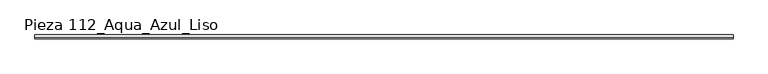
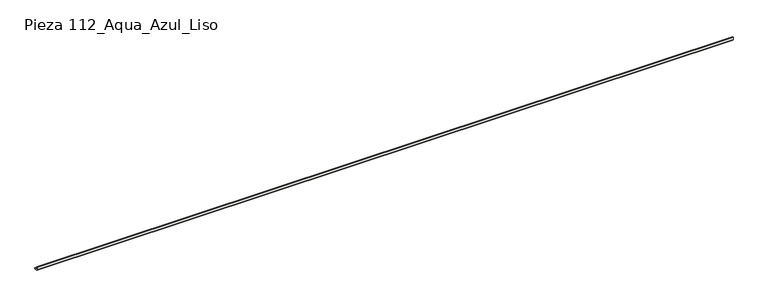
"""IFC4 building model written with IfcOpenShell, lengths in millimetres: slab geometry, ROSA GRES_112 : Pieza 112_Aqua_Azul_Liso."""

import ifcopenshell
import ifcopenshell.guid

model = None  # the IFC model being written
_history = None  # IfcOwnerHistory: only IFC2X3 demands one
_inside = {}  # id of a spatial element -> (the spatial element, [elements in it])
_under = {}  # id of a project, library or spatial element -> (it, [spatial elements below it])
_declared = {}  # id of a project -> (the project, [libraries it declares])
_typed = {}  # id of a type object -> (the type object, [elements of that type])
_made_of = {}  # id of a material, layer set ... -> (it, [elements and type objects made of it])


def new_model(schema):
    """Start an empty IFC model of exactly this schema.

    Asked for "IFC4X3", IfcOpenShell would pick the latest addendum, in which some entities
    have other attributes; the version numbers below select the first issue.
    IFC2X3 requires an IfcOwnerHistory on every rooted entity: one is made here for all.
    """
    global model, _history
    if schema == "IFC4X3":
        model = ifcopenshell.file(schema_version=(4, 3, 0, 0))
    else:
        model = ifcopenshell.file(schema=schema)
    _inside.clear()
    _under.clear()
    _declared.clear()
    _typed.clear()
    _made_of.clear()
    _history = None
    if model.schema == "IFC2X3":
        org = make("IfcOrganization", Name="unknown")
        user = make(
            "IfcPersonAndOrganization",
            ThePerson=make("IfcPerson", FamilyName="unknown"),
            TheOrganization=org,
        )
        app = make(
            "IfcApplication",
            ApplicationDeveloper=org,
            Version="unknown",
            ApplicationFullName="unknown",
            ApplicationIdentifier="unknown",
        )
        _history = make(
            "IfcOwnerHistory",
            OwningUser=user,
            OwningApplication=app,
            ChangeAction="ADDED",
            CreationDate=0,
        )
    return model


def make(cls, **values):
    """One entity of the class cls with the attributes given. An attribute that is None is left unset."""
    return model.create_entity(
        cls, **{name: value for name, value in values.items() if value is not None}
    )


def rooted(cls, **values):
    """An entity with a GlobalId (a new one), such as an element, a storey or a relation."""
    return make(cls, GlobalId=ifcopenshell.guid.new(), OwnerHistory=_history, **values)


def si_unit(unit_type, name, prefix=None):
    """IfcSIUnit, for example si_unit("LENGTHUNIT", "METRE", prefix="MILLI")."""
    return make("IfcSIUnit", UnitType=unit_type, Prefix=prefix, Name=name)


def assignment(units):
    """IfcUnitAssignment: the units of a project."""
    return None if units is None else make("IfcUnitAssignment", Units=units)


def point(xyz):
    """IfcCartesianPoint."""
    return None if xyz is None else make("IfcCartesianPoint", Coordinates=xyz)


def direction(xyz):
    """IfcDirection."""
    return None if xyz is None else make("IfcDirection", DirectionRatios=xyz)


def frame(location, z_axis=None, x_axis=None):
    """IfcAxis2Placement3D, a coordinate frame: its origin and axes. An axis left out is left unset."""
    return make(
        "IfcAxis2Placement3D",
        Location=point(location),
        Axis=direction(z_axis),
        RefDirection=direction(x_axis),
    )


def frame_2d(location, x_axis=None):
    """IfcAxis2Placement2D, a coordinate frame in the plane: its origin and x axis."""
    return make(
        "IfcAxis2Placement2D", Location=point(location), RefDirection=direction(x_axis)
    )


def origin():
    """The frame at (0, 0, 0) with its axes left unset."""
    return frame((0.0, 0.0, 0.0))


def place(relative_to, where):
    """IfcLocalPlacement: puts the frame where relative to a parent placement (None: the world)."""
    return make(
        "IfcLocalPlacement", PlacementRelTo=relative_to, RelativePlacement=where
    )


def context(
    kind, dimensions, precision=None, world=None, true_north=None, identifier=None
):
    """IfcGeometricRepresentationContext, for example the 3D "Model" context."""
    return make(
        "IfcGeometricRepresentationContext",
        ContextIdentifier=identifier,
        ContextType=kind,
        CoordinateSpaceDimension=dimensions,
        Precision=precision,
        WorldCoordinateSystem=world,
        TrueNorth=true_north,
    )


def project(units=None, contexts=None):
    """IfcProject with its units and contexts."""
    return rooted(
        "IfcProject",
        Name="project",
        RepresentationContexts=contexts,
        UnitsInContext=assignment(units),
    )


def spatial(cls, under=None, at=None, **own):
    """A site, building, storey or space (cls), placed at a placement, below another one or the project."""
    s = rooted(cls, ObjectPlacement=at, **own)
    if under is not None:
        _under.setdefault(under.id(), (under, []))[1].append(s)
    return s


def polyline(points):
    """IfcPolyline through the points."""
    return make("IfcPolyline", Points=[point(p) for p in points])


def circle_curve(where, radius):
    """IfcCircle in the frame where."""
    return make("IfcCircle", Position=where, Radius=radius)


def trimmed(basis, trim1, trim2, sense, master):
    """IfcTrimmedCurve: the piece of a basis curve between two trims."""
    return make(
        "IfcTrimmedCurve",
        BasisCurve=basis,
        Trim1=trim1,
        Trim2=trim2,
        SenseAgreement=sense,
        MasterRepresentation=master,
    )


def segment(curve, same_sense, transition):
    """IfcCompositeCurveSegment."""
    return make(
        "IfcCompositeCurveSegment",
        Transition=transition,
        SameSense=same_sense,
        ParentCurve=curve,
    )


def composite_curve(segments, self_intersect=None):
    """IfcCompositeCurve: segments joined end to end."""
    return make("IfcCompositeCurve", Segments=segments, SelfIntersect=self_intersect)


def outline(outer, holes=None, kind="AREA"):
    """IfcArbitraryClosedProfileDef: a profile drawn as a closed curve; with holes, ...WithVoids."""
    if holes is None:
        return make("IfcArbitraryClosedProfileDef", ProfileType=kind, OuterCurve=outer)
    return make(
        "IfcArbitraryProfileDefWithVoids",
        ProfileType=kind,
        OuterCurve=outer,
        InnerCurves=holes,
    )


def extrude(swept, where, along, depth):
    """IfcExtrudedAreaSolid: the profile swept, set in the frame where, extruded along a direction by depth."""
    return make(
        "IfcExtrudedAreaSolid",
        SweptArea=swept,
        Position=where,
        ExtrudedDirection=direction(along),
        Depth=depth,
    )


def shape(context_of_items, identifier, shape_type, items):
    """IfcShapeRepresentation: the items that make up one representation, for example the "Body"."""
    return make(
        "IfcShapeRepresentation",
        ContextOfItems=context_of_items,
        RepresentationIdentifier=identifier,
        RepresentationType=shape_type,
        Items=items,
    )


def source(mapping_origin, context_of_items, identifier, shape_type, items):
    """IfcRepresentationMap: a shape defined once, which mapped items show again and again."""
    return make(
        "IfcRepresentationMap",
        MappingOrigin=mapping_origin,
        MappedRepresentation=shape(context_of_items, identifier, shape_type, items),
    )


def transform(
    local_origin,
    x_axis=None,
    y_axis=None,
    z_axis=None,
    scale=None,
    scale2=None,
    scale3=None,
    uniform=True,
):
    """IfcCartesianTransformationOperator3D, or its non-uniform kind. x_axis, y_axis, z_axis: its Axis1, 2, 3."""
    if uniform:
        return make(
            "IfcCartesianTransformationOperator3D",
            Axis1=direction(x_axis),
            Axis2=direction(y_axis),
            LocalOrigin=point(local_origin),
            Scale=scale,
            Axis3=direction(z_axis),
        )
    return make(
        "IfcCartesianTransformationOperator3DnonUniform",
        Axis1=direction(x_axis),
        Axis2=direction(y_axis),
        LocalOrigin=point(local_origin),
        Scale=scale,
        Axis3=direction(z_axis),
        Scale2=scale2,
        Scale3=scale3,
    )


def mapped(mapping_source, mapping_target):
    """IfcMappedItem: shows the shape of a source again, moved by a transform."""
    return make(
        "IfcMappedItem", MappingSource=mapping_source, MappingTarget=mapping_target
    )


def made_of(thing, what):
    """Note that an element or type object is made of a material, layer set ...; save() writes the relation."""
    if what is not None:
        _made_of.setdefault(what.id(), (what, []))[1].append(thing)
    return thing


def element(
    cls,
    number,
    at=None,
    inside=None,
    cuts=None,
    type_object=None,
    material=None,
    context=None,
    identifier="Body",
    shape_type=None,
    held_by="IfcProductDefinitionShape",
    body=None,
    shapes=None,
    **own,
):
    """One element of the class cls, such as IfcWall. Its Tag is "e" and its number.

    at: its placement. inside: the storey or other place that contains it. cuts: it is an
    opening in that element (IfcRelVoidsElement). A single representation is given by context,
    identifier, shape_type and body (its items); several are given by shapes. held_by: the class
    of the entity that holds the representations. save() writes the other relations.
    """
    e = rooted(cls, Tag="e%d" % number, ObjectPlacement=at, **own)
    if body is not None:
        shapes = [shape(context, identifier, shape_type, body)]
    if shapes is not None:
        e.Representation = make(held_by, Representations=shapes)
    if inside is not None:
        _inside.setdefault(inside.id(), (inside, []))[1].append(e)
    if cuts is not None:
        rooted(
            "IfcRelVoidsElement", RelatingBuildingElement=cuts, RelatedOpeningElement=e
        )
    if type_object is not None:
        _typed.setdefault(type_object.id(), (type_object, []))[1].append(e)
    return made_of(e, material)


def aggregate(whole, parts):
    """IfcRelAggregates: a whole, such as a stair, and the parts it consists of."""
    return rooted("IfcRelAggregates", RelatingObject=whole, RelatedObjects=parts)


def save(model, path):
    """Write the relations noted so far, then the file.

    IfcRelAggregates (storeys below a building ...), IfcRelContainedInSpatialStructure (elements
    in a storey), IfcRelDefinesByType, IfcRelAssociatesMaterial and IfcRelDeclares: one each for
    every whole, place, type object, material and project.
    """
    for whole, parts in _under.values():
        aggregate(whole, parts)
    for where, things in _inside.values():
        rooted(
            "IfcRelContainedInSpatialStructure",
            RelatedElements=things,
            RelatingStructure=where,
        )
    for kind, things in _typed.values():
        rooted("IfcRelDefinesByType", RelatedObjects=things, RelatingType=kind)
    for what, things in _made_of.values():
        rooted("IfcRelAssociatesMaterial", RelatedObjects=things, RelatingMaterial=what)
    for by, libraries in _declared.values():
        rooted("IfcRelDeclares", RelatingContext=by, RelatedDefinitions=libraries)
    model.write(path)


def pieza_112_aqua_azul_liso_746ee73a(model_context):
    return source(origin(), model_context, "Body", "SweptSolid", [
        extrude(outline(composite_curve([segment(polyline([(0.0, 8.7114978), (0.0, 40.0), (9.9734114, 40.0)]), True, "CONTINUOUS"), segment(trimmed(circle_curve(frame_2d((39.9955547, 39.9955547)), 30.0221435), [point((9.9734114, 40.0))], [point((40.0, 9.9734114))], True, "CARTESIAN"), True, "CONTINUOUS"), segment(polyline([(40.0, 9.9734114), (40.0, 0.0), (8.7114978, 0.0), (0.0, 8.7114978)]), True, "CONTINUOUS")], self_intersect=False)), frame((0.0, 0.0, 0.0), z_axis=(1.0, 0.0, 0.0), x_axis=(0.0, 1.0, 0.0)), (0.0, 0.0, 1.0), 7241.9181192),
    ])


if __name__ == "__main__":
    model = new_model("IFC4")
    model_context = context("Model", 3, world=origin())
    ifc_project = project(units=[si_unit("LENGTHUNIT", "METRE", prefix="MILLI")], contexts=[model_context])
    site = spatial("IfcSite", under=ifc_project)
    building = spatial("IfcBuilding", under=site)
    placement = place(None, origin())
    pieza_112_aqua_azul_liso_shape = pieza_112_aqua_azul_liso_746ee73a(model_context)
    element("IfcSlab", 1, ObjectType="ROSA GRES_112 : Pieza 112_Aqua_Azul_Liso", at=placement, inside=building, context=model_context, shape_type="MappedRepresentation", body=[
        mapped(pieza_112_aqua_azul_liso_shape, transform((0.0, 0.0, 0.0), x_axis=(1.0, 0.0, 0.0), y_axis=(0.0, 1.0, 0.0), z_axis=(0.0, 0.0, 1.0))),
    ])
    save(model, "model.ifc")
